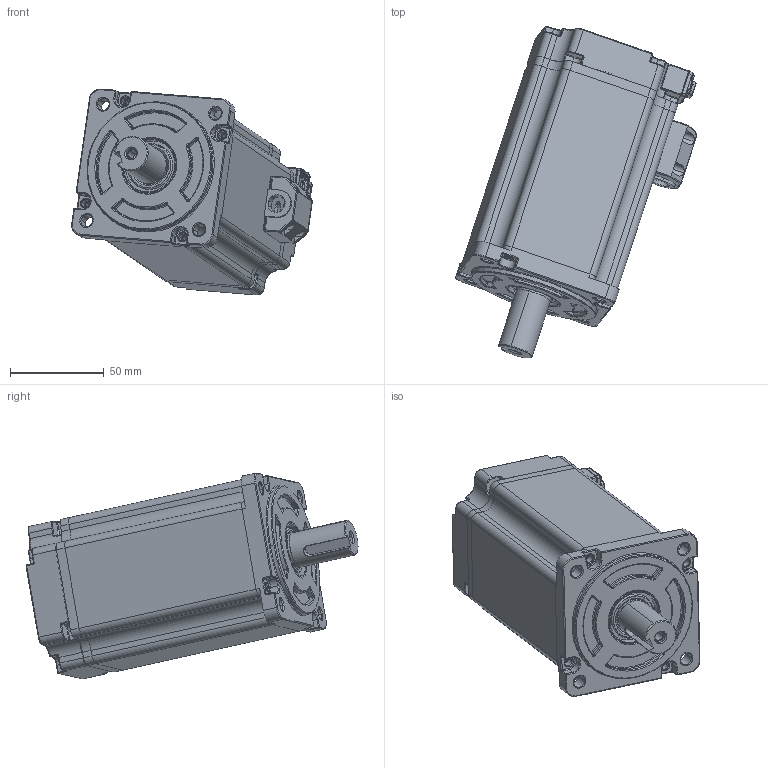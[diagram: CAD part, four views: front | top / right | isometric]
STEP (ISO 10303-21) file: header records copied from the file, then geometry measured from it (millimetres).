
FILE_DESCRIPTION (( 'STEP AP214' ), '1' );
FILE_NAME ('1200w整机（插座式）.STEP', '2023-07-03T02:18:22', ( '' ), ( '' ), 'SwSTEP 2.0', 'SolidWorks 2014', '' );
FILE_SCHEMA (( 'AUTOMOTIVE_DESIGN' ));
Length unit declared in the file: millimetre
Products named in the file (13): 80-晤鎢ん欶; SC40陔晤鎢ん瑤脣釱sc-mc7p-a6-zhichuxianchazuo; 后轴承 GB／T276-94深沟球轴承6002-2Z_1; 80#陔晤鎢ん欶; 80#陔ヶ傷裔 - 萵掛_1; 1200w淕儂ㄗ脣釱宒ㄘ; E08B103AN5 - 19 - 154 - 8 - D; 前轴承 GB／T276-94深沟球轴承6004-2Z_1; 蚐猾 D00B999YF5-TC 20-30-5-1; E08B101AE4-101.5-D; 低压电机动力压线盖; 80#陔綴傷裔_1; 揤盄裔躇猾菜-9.6
Assembly tree (12 placements, depth 3):
  1200w淕儂ㄗ脣釱宒ㄘ
    后轴承 GB／T276-94深沟球轴承6002-2Z_1
    前轴承 GB／T276-94深沟球轴承6004-2Z_1
    80#陔綴傷裔_1
    80#陔ヶ傷裔 - 萵掛_1
    揤盄裔躇猾菜-9.6
    低压电机动力压线盖
    蚐猾 D00B999YF5-TC 20-30-5-1
    E08B103AN5 - 19 - 154 - 8 - D
    E08B101AE4-101.5-D
    80-晤鎢ん欶
      80#陔晤鎢ん欶
      SC40陔晤鎢ん瑤脣釱sc-mc7p-a6-zhichuxianchazuo
Bounding box: 128.48 x 177.21 x 109.89 mm (x, y, z)
Volume: 299399.4 mm3; surface area: 152962.7 mm2
Topology: 20 solids, 20 shells, 3007 faces, 7698 edges, 4667 vertices
Faces by surface type: cylinder 1064, plane 1062, bspline 656, cone 151, torus 50, sphere 24
Entity records: 147352 total; most frequent: CARTESIAN_POINT 48158, ORIENTED_EDGE 15180, DIRECTION 13401, EDGE_CURVE 7590, AXIS2_PLACEMENT_3D 4846, VERTEX_POINT 4667, LINE 3709, VECTOR 3709
